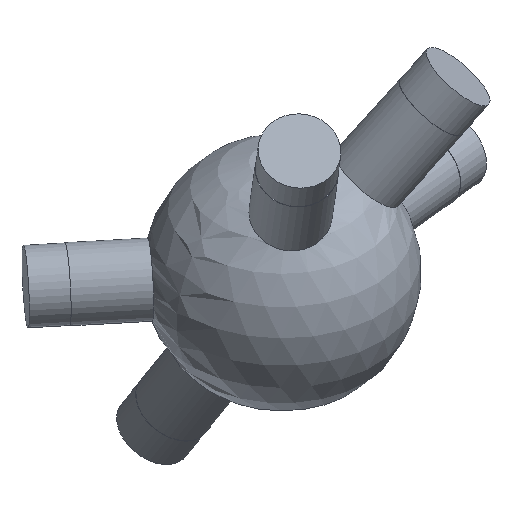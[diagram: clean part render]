
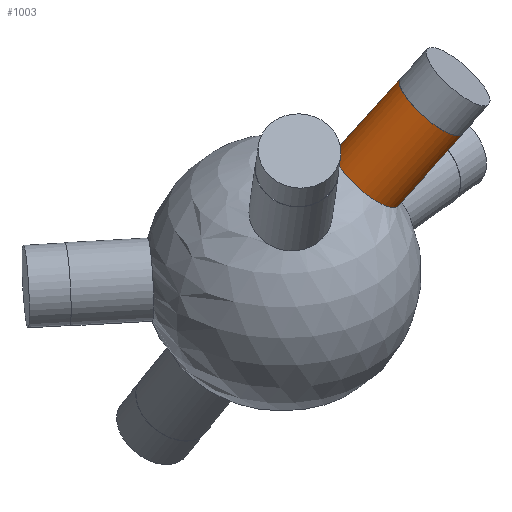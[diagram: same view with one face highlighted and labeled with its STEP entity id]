
A CAD part, isometric view. The second image highlights one B-rep face of the part: STEP entity #1003.
In plain terms, the highlighted cylindrical face has radius 6 mm (diameter 12 mm), a full revolution.
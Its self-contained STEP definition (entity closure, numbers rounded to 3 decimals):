
#33 = SPHERICAL_SURFACE('',#34,20.);
#34 = AXIS2_PLACEMENT_3D('',#35,#36,#37);
#35 = CARTESIAN_POINT('',(0.,0.,0.));
#36 = DIRECTION('',(0.,0.,1.));
#37 = DIRECTION('',(1.,0.,-0.));
#629 = EDGE_CURVE('',#630,#630,#632,.T.);
#630 = VERTEX_POINT('',#631);
#631 = CARTESIAN_POINT('',(15.53,-6.444,
    10.829));
#632 = SURFACE_CURVE('',#633,(#638,#714),.PCURVE_S1.);
#633 = CIRCLE('',#634,6.);
#634 = AXIS2_PLACEMENT_3D('',#635,#636,#637);
#635 = CARTESIAN_POINT('',(10.716,-6.444,
    14.41));
#636 = DIRECTION('',(0.562,-0.338,0.755));
#637 = DIRECTION('',(-0.802,0.,0.597)
  );
#638 = PCURVE('',#33,#639);
#639 = DEFINITIONAL_REPRESENTATION('',(#640),#713);
#640 = B_SPLINE_CURVE_WITH_KNOTS('',8,(#641,#642,#643,#644,#645,#646,
    #647,#648,#649,#650,#651,#652,#653,#654,#655,#656,#657,#658,#659,
    #660,#661,#662,#663,#664,#665,#666,#667,#668,#669,#670,#671,#672,
    #673,#674,#675,#676,#677,#678,#679,#680,#681,#682,#683,#684,#685,
    #686,#687,#688,#689,#690,#691,#692,#693,#694,#695,#696,#697,#698,
    #699,#700,#701,#702,#703,#704,#705,#706,#707,#708,#709,#710,#711,
    #712),.UNSPECIFIED.,.T.,.F.,(9,7,7,7,7,7,7,7,7,7,9),(3.142,
    3.927,4.614,5.216,5.479,
    5.972,6.403,6.781,7.442,
    8.433,9.425),.UNSPECIFIED.);
#641 = CARTESIAN_POINT('',(5.89,0.572));
#642 = CARTESIAN_POINT('',(5.923,0.582));
#643 = CARTESIAN_POINT('',(5.955,0.594));
#644 = CARTESIAN_POINT('',(5.987,0.608));
#645 = CARTESIAN_POINT('',(6.017,0.624));
#646 = CARTESIAN_POINT('',(6.046,0.643));
#647 = CARTESIAN_POINT('',(6.073,0.663));
#648 = CARTESIAN_POINT('',(6.098,0.686));
#649 = CARTESIAN_POINT('',(6.141,0.73));
#650 = CARTESIAN_POINT('',(6.159,0.752));
#651 = CARTESIAN_POINT('',(6.175,0.775));
#652 = CARTESIAN_POINT('',(6.189,0.799));
#653 = CARTESIAN_POINT('',(6.201,0.824));
#654 = CARTESIAN_POINT('',(6.21,0.849));
#655 = CARTESIAN_POINT('',(6.215,0.875));
#656 = CARTESIAN_POINT('',(6.218,0.923));
#657 = CARTESIAN_POINT('',(6.217,0.946));
#658 = CARTESIAN_POINT('',(6.212,0.969));
#659 = CARTESIAN_POINT('',(6.204,0.991));
#660 = CARTESIAN_POINT('',(6.192,1.012));
#661 = CARTESIAN_POINT('',(6.175,1.033));
#662 = CARTESIAN_POINT('',(6.153,1.053));
#663 = CARTESIAN_POINT('',(6.114,1.08));
#664 = CARTESIAN_POINT('',(6.102,1.088));
#665 = CARTESIAN_POINT('',(6.088,1.095));
#666 = CARTESIAN_POINT('',(6.073,1.102));
#667 = CARTESIAN_POINT('',(6.057,1.109));
#668 = CARTESIAN_POINT('',(6.04,1.116));
#669 = CARTESIAN_POINT('',(6.022,1.122));
#670 = CARTESIAN_POINT('',(5.967,1.138));
#671 = CARTESIAN_POINT('',(5.928,1.146));
#672 = CARTESIAN_POINT('',(5.886,1.154));
#673 = CARTESIAN_POINT('',(5.841,1.159));
#674 = CARTESIAN_POINT('',(5.795,1.162));
#675 = CARTESIAN_POINT('',(5.748,1.162));
#676 = CARTESIAN_POINT('',(5.701,1.161));
#677 = CARTESIAN_POINT('',(5.616,1.154));
#678 = CARTESIAN_POINT('',(5.578,1.15));
#679 = CARTESIAN_POINT('',(5.541,1.144));
#680 = CARTESIAN_POINT('',(5.506,1.136));
#681 = CARTESIAN_POINT('',(5.474,1.127));
#682 = CARTESIAN_POINT('',(5.445,1.117));
#683 = CARTESIAN_POINT('',(5.419,1.106));
#684 = CARTESIAN_POINT('',(5.374,1.083));
#685 = CARTESIAN_POINT('',(5.356,1.072));
#686 = CARTESIAN_POINT('',(5.339,1.06));
#687 = CARTESIAN_POINT('',(5.325,1.048));
#688 = CARTESIAN_POINT('',(5.313,1.035));
#689 = CARTESIAN_POINT('',(5.302,1.022));
#690 = CARTESIAN_POINT('',(5.293,1.009));
#691 = CARTESIAN_POINT('',(5.274,0.971));
#692 = CARTESIAN_POINT('',(5.266,0.947));
#693 = CARTESIAN_POINT('',(5.263,0.922));
#694 = CARTESIAN_POINT('',(5.264,0.897));
#695 = CARTESIAN_POINT('',(5.268,0.872));
#696 = CARTESIAN_POINT('',(5.275,0.848));
#697 = CARTESIAN_POINT('',(5.284,0.824));
#698 = CARTESIAN_POINT('',(5.315,0.765));
#699 = CARTESIAN_POINT('',(5.338,0.732));
#700 = CARTESIAN_POINT('',(5.366,0.701));
#701 = CARTESIAN_POINT('',(5.397,0.672));
#702 = CARTESIAN_POINT('',(5.431,0.646));
#703 = CARTESIAN_POINT('',(5.468,0.623));
#704 = CARTESIAN_POINT('',(5.507,0.603));
#705 = CARTESIAN_POINT('',(5.588,0.572));
#706 = CARTESIAN_POINT('',(5.63,0.56));
#707 = CARTESIAN_POINT('',(5.673,0.552));
#708 = CARTESIAN_POINT('',(5.717,0.548));
#709 = CARTESIAN_POINT('',(5.761,0.548));
#710 = CARTESIAN_POINT('',(5.805,0.552));
#711 = CARTESIAN_POINT('',(5.848,0.56));
#712 = CARTESIAN_POINT('',(5.89,0.572));
#713 = ( GEOMETRIC_REPRESENTATION_CONTEXT(2) 
PARAMETRIC_REPRESENTATION_CONTEXT() REPRESENTATION_CONTEXT('2D SPACE',''
  ) );
#714 = PCURVE('',#715,#720);
#715 = CYLINDRICAL_SURFACE('',#716,6.);
#716 = AXIS2_PLACEMENT_3D('',#717,#718,#719);
#717 = CARTESIAN_POINT('',(0.,0.,0.));
#718 = DIRECTION('',(0.562,-0.338,0.755));
#719 = DIRECTION('',(0.802,0.,-0.597)
  );
#720 = DEFINITIONAL_REPRESENTATION('',(#721),#725);
#721 = LINE('',#722,#723);
#722 = CARTESIAN_POINT('',(-3.142,19.079));
#723 = VECTOR('',#724,1.);
#724 = DIRECTION('',(1.,0.));
#725 = ( GEOMETRIC_REPRESENTATION_CONTEXT(2) 
PARAMETRIC_REPRESENTATION_CONTEXT() REPRESENTATION_CONTEXT('2D SPACE',''
  ) );
#1003 = ADVANCED_FACE('',(#1004),#715,.T.);
#1004 = FACE_BOUND('',#1005,.T.);
#1005 = EDGE_LOOP('',(#1006,#1029,#1056,#1057));
#1006 = ORIENTED_EDGE('',*,*,#1007,.T.);
#1007 = EDGE_CURVE('',#630,#1008,#1010,.T.);
#1008 = VERTEX_POINT('',#1009);
#1009 = CARTESIAN_POINT('',(23.715,-11.366,
    21.836));
#1010 = SEAM_CURVE('',#1011,(#1015,#1022),.PCURVE_S1.);
#1011 = LINE('',#1012,#1013);
#1012 = CARTESIAN_POINT('',(4.815,0.,
    -3.58));
#1013 = VECTOR('',#1014,1.);
#1014 = DIRECTION('',(0.562,-0.338,0.755));
#1015 = PCURVE('',#715,#1016);
#1016 = DEFINITIONAL_REPRESENTATION('',(#1017),#1021);
#1017 = LINE('',#1018,#1019);
#1018 = CARTESIAN_POINT('',(6.283,-0.));
#1019 = VECTOR('',#1020,1.);
#1020 = DIRECTION('',(0.,1.));
#1021 = ( GEOMETRIC_REPRESENTATION_CONTEXT(2) 
PARAMETRIC_REPRESENTATION_CONTEXT() REPRESENTATION_CONTEXT('2D SPACE',''
  ) );
#1022 = PCURVE('',#715,#1023);
#1023 = DEFINITIONAL_REPRESENTATION('',(#1024),#1028);
#1024 = LINE('',#1025,#1026);
#1025 = CARTESIAN_POINT('',(0.,-0.));
#1026 = VECTOR('',#1027,1.);
#1027 = DIRECTION('',(0.,1.));
#1028 = ( GEOMETRIC_REPRESENTATION_CONTEXT(2) 
PARAMETRIC_REPRESENTATION_CONTEXT() REPRESENTATION_CONTEXT('2D SPACE',''
  ) );
#1029 = ORIENTED_EDGE('',*,*,#1030,.F.);
#1030 = EDGE_CURVE('',#1008,#1008,#1031,.T.);
#1031 = SURFACE_CURVE('',#1032,(#1037,#1044),.PCURVE_S1.);
#1032 = CIRCLE('',#1033,6.);
#1033 = AXIS2_PLACEMENT_3D('',#1034,#1035,#1036);
#1034 = CARTESIAN_POINT('',(18.9,-11.366,
    25.416));
#1035 = DIRECTION('',(0.562,-0.338,0.755));
#1036 = DIRECTION('',(0.802,0.,-0.597
    ));
#1037 = PCURVE('',#715,#1038);
#1038 = DEFINITIONAL_REPRESENTATION('',(#1039),#1043);
#1039 = LINE('',#1040,#1041);
#1040 = CARTESIAN_POINT('',(0.,33.651));
#1041 = VECTOR('',#1042,1.);
#1042 = DIRECTION('',(1.,0.));
#1043 = ( GEOMETRIC_REPRESENTATION_CONTEXT(2) 
PARAMETRIC_REPRESENTATION_CONTEXT() REPRESENTATION_CONTEXT('2D SPACE',''
  ) );
#1044 = PCURVE('',#1045,#1050);
#1045 = PLANE('',#1046);
#1046 = AXIS2_PLACEMENT_3D('',#1047,#1048,#1049);
#1047 = CARTESIAN_POINT('',(18.9,-11.366,
    25.416));
#1048 = DIRECTION('',(0.562,-0.338,0.755));
#1049 = DIRECTION('',(0.802,0.,-0.597
    ));
#1050 = DEFINITIONAL_REPRESENTATION('',(#1051),#1055);
#1051 = CIRCLE('',#1052,6.);
#1052 = AXIS2_PLACEMENT_2D('',#1053,#1054);
#1053 = CARTESIAN_POINT('',(0.,0.));
#1054 = DIRECTION('',(1.,0.));
#1055 = ( GEOMETRIC_REPRESENTATION_CONTEXT(2) 
PARAMETRIC_REPRESENTATION_CONTEXT() REPRESENTATION_CONTEXT('2D SPACE',''
  ) );
#1056 = ORIENTED_EDGE('',*,*,#1007,.F.);
#1057 = ORIENTED_EDGE('',*,*,#629,.T.);
